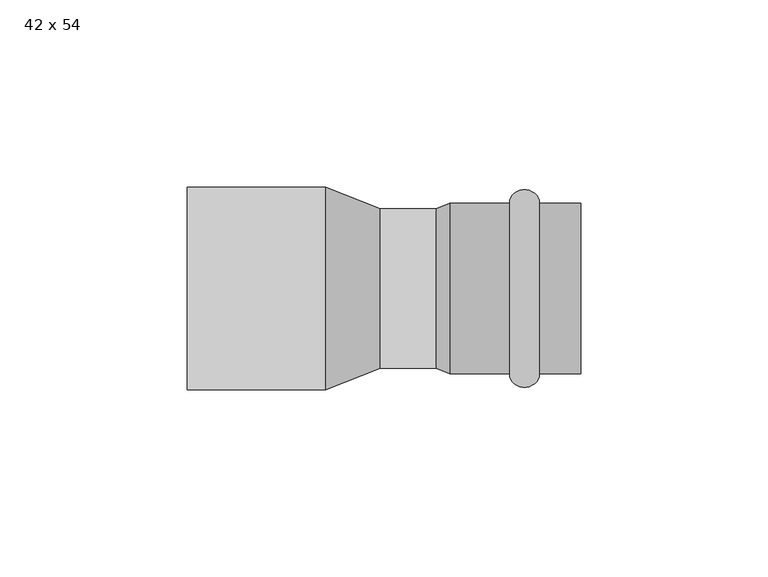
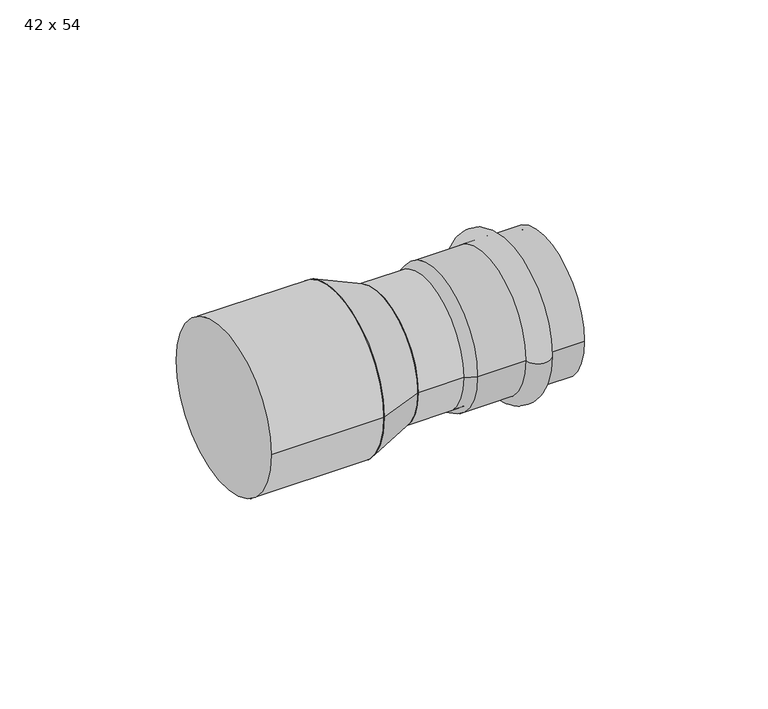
"""IFC4 building model written with IfcOpenShell, lengths in millimetres: pipe fitting geometry, РЕХАУ_Пресс Вставка переходная : 42 x 54."""

from ifc_helpers import new_model, si_unit, point, frame, origin, origin_2d, place, context, project, spatial, polyline, circle_curve, ellipse_curve, trimmed, segment, composite_curve, outline, extrude, source, transform, mapped, element, save
from ifc_brep_helpers import plane_surface, cylinder_surface, revolved_surface, advanced_brep


def pipe_fitting_42_x_54_48f9dc8b(model_context):
    return source(origin(), model_context, "Body", "SolidModel", [
        advanced_brep(
        [(94.0, 22.75, 0.0), (94.0, -22.75, 0.0), (86.0, -22.75, 0.0), (86.0, 22.75, 0.0)],
        [
            (0, 1, circle_curve(frame((94.0, 0.0, 0.0), z_axis=(1.0, 0.0, 0.0), x_axis=(0.0, -1.0, 0.0)), 22.75)),
            (1, 2),
            (2, 3, circle_curve(frame((86.0, 0.0, 0.0), z_axis=(-1.0, 0.0, 0.0), x_axis=(0.0, -1.0, 0.0)), 22.75)),
            (3, 0),
            (1, 0, circle_curve(frame((94.0, 0.0, 0.0), z_axis=(1.0, 0.0, 0.0), x_axis=(0.0, -1.0, 0.0)), 22.75)),
            (3, 2, circle_curve(frame((86.0, 0.0, 0.0), z_axis=(-1.0, 0.0, 0.0), x_axis=(0.0, -1.0, 0.0)), 22.75)),
            (2, 1, ellipse_curve(frame((90.0, -22.75, 0.0), z_axis=(0.0, 0.0, 1.0), x_axis=(1.0, 0.0, 0.0)), 4.0, 3.6)),
            (0, 3, ellipse_curve(frame((90.0, 22.75, 0.0), z_axis=(0.0, 0.0, 1.0), x_axis=(1.0, 0.0, 0.0)), 4.0, 3.6)),
        ],
        [
            revolved_surface(polyline([(86.0, -22.75, 0.0), (94.0, -22.75, 0.0)]), (66.0, 0.0, 0.0), (-1.0, 0.0, 0.0)),
            revolved_surface(trimmed(ellipse_curve(frame((90.0, -22.75, 0.0), z_axis=(0.0, 0.0, -1.0), x_axis=(1.0, 0.0, 0.0)), 4.0, 3.6), [point((94.0, -22.75, 0.0))], [point((86.0, -22.75, 0.0))], True, "CARTESIAN"), (66.0, 0.0, 0.0), (-1.0, 0.0, 0.0)),
        ],
        [
            (0, [[1, 2, 3, 4]]),
            (0, [[5, -4, 6, -2]]),
            (1, [[-3, 7, -1, 8]]),
            (1, [[-6, -8, -5, -7]]),
        ],
    ),
        advanced_brep(
        [(66.4662215, 21.25, 0.0), (66.4662215, -21.25, 0.0), (70.0, -22.75, 0.0), (70.0, 22.75, 0.0), (105.0, 21.25, 0.0), (105.0, -21.25, 0.0), (105.0, 22.75, 0.0), (105.0, -22.75, 0.0)],
        [
            (0, 1, circle_curve(frame((66.4662215, 0.0, 0.0), z_axis=(1.0, 0.0, 0.0), x_axis=(0.0, -1.0, 0.0)), 21.25)),
            (1, 2),
            (2, 3, circle_curve(frame((70.0, 0.0, 0.0), z_axis=(-1.0, 0.0, 0.0), x_axis=(0.0, -1.0, 0.0)), 22.75)),
            (3, 0),
            (1, 0, circle_curve(frame((66.4662215, 0.0, 0.0), z_axis=(1.0, 0.0, 0.0), x_axis=(0.0, -1.0, 0.0)), 21.25)),
            (3, 2, circle_curve(frame((70.0, 0.0, 0.0), z_axis=(-1.0, 0.0, 0.0), x_axis=(0.0, -1.0, 0.0)), 22.75)),
            (4, 5, circle_curve(frame((105.0, 0.0, 0.0), z_axis=(1.0, 0.0, 0.0), x_axis=(0.0, -1.0, 0.0)), 21.25)),
            (5, 1),
            (0, 4),
            (5, 4, circle_curve(frame((105.0, 0.0, 0.0), z_axis=(1.0, 0.0, 0.0), x_axis=(0.0, -1.0, 0.0)), 21.25)),
            (6, 7, circle_curve(frame((105.0, 0.0, 0.0), z_axis=(1.0, 0.0, 0.0), x_axis=(0.0, -1.0, 0.0)), 22.75)),
            (7, 5),
            (4, 6),
            (7, 6, circle_curve(frame((105.0, 0.0, 0.0), z_axis=(1.0, 0.0, 0.0), x_axis=(0.0, -1.0, 0.0)), 22.75)),
            (2, 7),
            (6, 3),
        ],
        [
            revolved_surface(polyline([(70.0, -22.75, 0.0), (66.4662215, -21.25, 0.0)]), (66.0, 0.0, 0.0), (-1.0, 0.0, 0.0)),
            revolved_surface(polyline([(66.4662215, -21.25, 0.0), (105.0, -21.25, 0.0)]), (66.0, 0.0, 0.0), (-1.0, 0.0, 0.0)),
            plane_surface(frame((105.0, 0.0, 0.0), z_axis=(1.0, 0.0, 0.0), x_axis=(0.0, -1.0, 0.0))),
            cylinder_surface(frame((66.0, 0.0, 0.0), z_axis=(-1.0, 0.0, 0.0), x_axis=(0.0, -1.0, 0.0)), 22.75),
        ],
        [
            (0, [[1, 2, 3, 4]]),
            (0, [[5, -4, 6, -2]]),
            (1, [[7, 8, -1, 9]]),
            (1, [[10, -9, -5, -8]]),
            (2, [[11, 12, -7, 13]]),
            (2, [[14, -13, -10, -12]]),
            (3, [[-3, 15, -11, 16]]),
            (3, [[-6, -16, -14, -15]]),
        ],
    ),
        extrude(outline(composite_curve([segment(trimmed(circle_curve(origin_2d(), 21.25), [point((-21.25, 0.0))], [point((21.25, 0.0))], False, "CARTESIAN"), True, "CONTINUOUS"), segment(trimmed(circle_curve(origin_2d(), 21.25), [point((21.25, 0.0))], [point((-21.25, 0.0))], False, "CARTESIAN"), True, "CONTINUOUS")], self_intersect=False)), frame((51.45, 0.0, 0.0), z_axis=(1.0, 0.0, 0.0), x_axis=(0.0, 1.0, 0.0)), (0.0, 0.0, 1.0), 18.55),
        advanced_brep(
        [(51.45, -21.25, 0.0), (51.45, 21.25, 0.0), (37.0, -27.0, 0.0), (37.0, 27.0, 0.0)],
        [
            (0, 1, circle_curve(frame((51.45, 0.0, 0.0), z_axis=(1.0, 0.0, 0.0), x_axis=(0.0, -1.0, 0.0)), 21.25)),
            (1, 0, circle_curve(frame((51.45, 0.0, 0.0), z_axis=(1.0, 0.0, 0.0), x_axis=(0.0, 1.0, 0.0)), 21.25)),
            (2, 3, circle_curve(frame((37.0, 0.0, 0.0), z_axis=(-1.0, 0.0, 0.0), x_axis=(0.0, 1.0, 0.0)), 27.0)),
            (3, 2, circle_curve(frame((37.0, 0.0, 0.0), z_axis=(-1.0, 0.0, 0.0), x_axis=(0.0, -1.0, 0.0)), 27.0)),
            (3, 1),
            (0, 2),
        ],
        [
            plane_surface(frame((51.45, 0.0, 0.0), z_axis=(1.0, 0.0, 0.0), x_axis=(0.0, 0.0, -1.0))),
            plane_surface(frame((37.0, 0.0, 0.0), z_axis=(-1.0, 0.0, 0.0), x_axis=(0.0, 0.0, -1.0))),
            revolved_surface(polyline([(51.45, -21.249999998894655, 0.0), (37.0, -27.0, 0.0)]), (104.8521739, 0.0, 0.0), (-1.0, 0.0, 0.0)),
            revolved_surface(polyline([(51.45, 21.249999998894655, 0.0), (37.0, 27.0, 0.0)]), (104.8521739, 0.0, 0.0), (-1.0, 0.0, 0.0)),
        ],
        [
            (0, [[1, 2]]),
            (1, [[3, 4]]),
            (2, [[-4, 5, -1, 6]]),
            (3, [[-3, -6, -2, -5]]),
        ],
    ),
        extrude(outline(composite_curve([segment(trimmed(circle_curve(origin_2d(), 27.0), [point((-27.0, 0.0))], [point((27.0, 0.0))], False, "CARTESIAN"), True, "CONTINUOUS"), segment(trimmed(circle_curve(origin_2d(), 27.0), [point((27.0, 0.0))], [point((-27.0, 0.0))], False, "CARTESIAN"), True, "CONTINUOUS")], self_intersect=False)), frame((0.0, 0.0, 0.0), z_axis=(1.0, 0.0, 0.0), x_axis=(0.0, 1.0, 0.0)), (0.0, 0.0, 1.0), 37.0),
    ])


if __name__ == "__main__":
    model = new_model("IFC4")
    model_context = context("Model", 3, world=origin())
    ifc_project = project(units=[si_unit("LENGTHUNIT", "METRE", prefix="MILLI")], contexts=[model_context])
    site = spatial("IfcSite", under=ifc_project)
    building = spatial("IfcBuilding", under=site)
    placement = place(None, origin())
    pipe_fitting_42_x_54_shape = pipe_fitting_42_x_54_48f9dc8b(model_context)
    element("IfcPipeFitting", 1, ObjectType="РЕХАУ_Пресс Вставка переходная : 42 x 54", at=placement, inside=building, context=model_context, shape_type="MappedRepresentation", body=[
        mapped(pipe_fitting_42_x_54_shape, transform((0.0, 0.0, 0.0), x_axis=(1.0, 0.0, 0.0), y_axis=(0.0, 1.0, 0.0), z_axis=(0.0, 0.0, 1.0))),
    ])
    save(model, "model.ifc")
